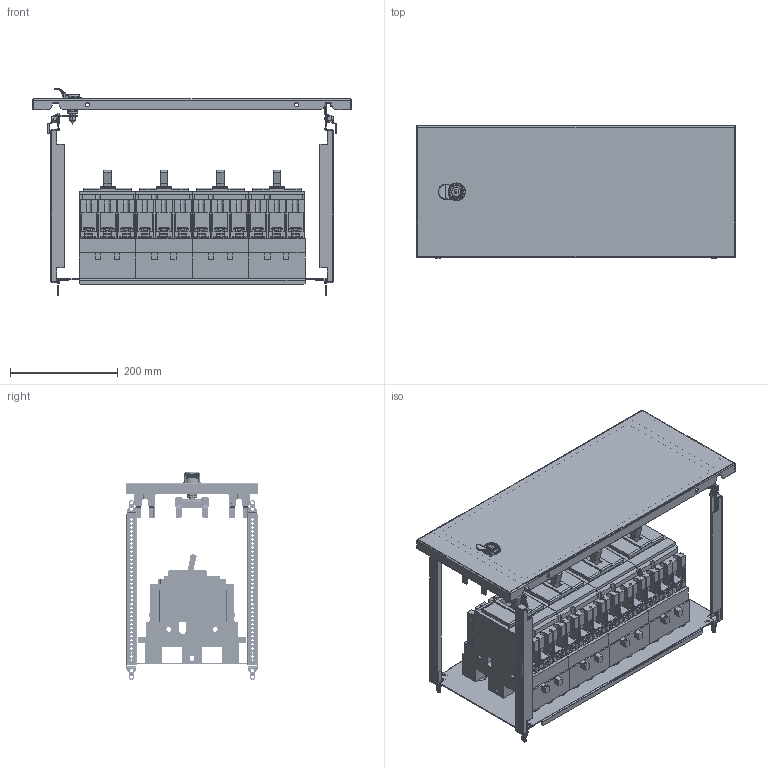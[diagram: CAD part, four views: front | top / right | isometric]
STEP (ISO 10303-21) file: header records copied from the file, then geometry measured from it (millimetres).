
FILE_DESCRIPTION(('CAx-IF Rec.Pracs.---Model Styling and Organization---1.2---2011-12-15','CAx-IF Rec.Pracs.---Geometric and Assembly Validation Properties---4.1---2014-06-16','CAx-IF Rec.Pracs.---PMI Polyline Presentation---2.0---2013-05-24'),'2;1');
FILE_NAME('R5PKEB7V62213 (P).stp','2021-07-29T02:37:38+03:00',(''),(''),'STEP Interface 4.4 by CT CoreTechnologie','3D_Evolution4.4 by CT CoreTechnologie','');
FILE_SCHEMA(('AUTOMOTIVE_DESIGN { 1 0 10303 214 1 1 1 1 }'));
Length unit declared in the file: millimetre
Products named in the file (1): R5PKEB7V62213 (P)
Bounding box: 594 x 245 x 386.9 mm (x, y, z)
Surface area: 1896321.2 mm2 (no closed solid volume)
Topology: 0 solids, 113 shells, 5312 faces, 14955 edges, 9903 vertices
Faces by surface type: plane 3571, cylinder 1269, bspline 472
Entity records: 181560 total; most frequent: CARTESIAN_POINT 42715, ORIENTED_EDGE 29808, DIRECTION 27345, EDGE_CURVE 14916, VECTOR 11559, LINE 11559, VERTEX_POINT 9971, AXIS2_PLACEMENT_3D 7893
